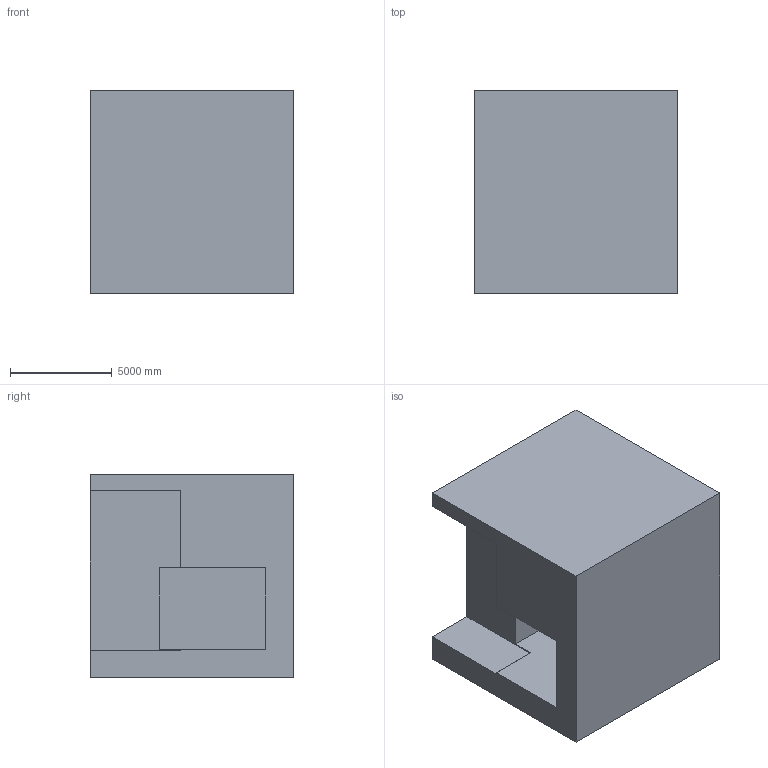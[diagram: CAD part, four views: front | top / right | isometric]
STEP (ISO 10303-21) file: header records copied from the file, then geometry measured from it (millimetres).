
FILE_DESCRIPTION (( 'STEP AP203' ), '1' );
FILE_NAME ('1083.STEP', '2022-08-18T12:41:30', ( 'user' ), ( '' ), 'SwSTEP 2.0', 'SolidWorks 2021', '' );
FILE_SCHEMA (( 'CONFIG_CONTROL_DESIGN' ));
Length unit declared in the file: centimetre
Products named in the file (1): 1083
Bounding box: 10000 x 10000 x 10000 mm (x, y, z)
Volume: 822104467420.3 mm3; surface area: 688379846.5 mm2
Topology: 1 solids, 1 shells, 16 faces, 42 edges, 28 vertices
Faces by surface type: plane 16
Entity records: 563 total; most frequent: CARTESIAN_POINT 87, ORIENTED_EDGE 84, DIRECTION 76, EDGE_CURVE 42, VECTOR 42, LINE 42, VERTEX_POINT 28, AXIS2_PLACEMENT_3D 17
